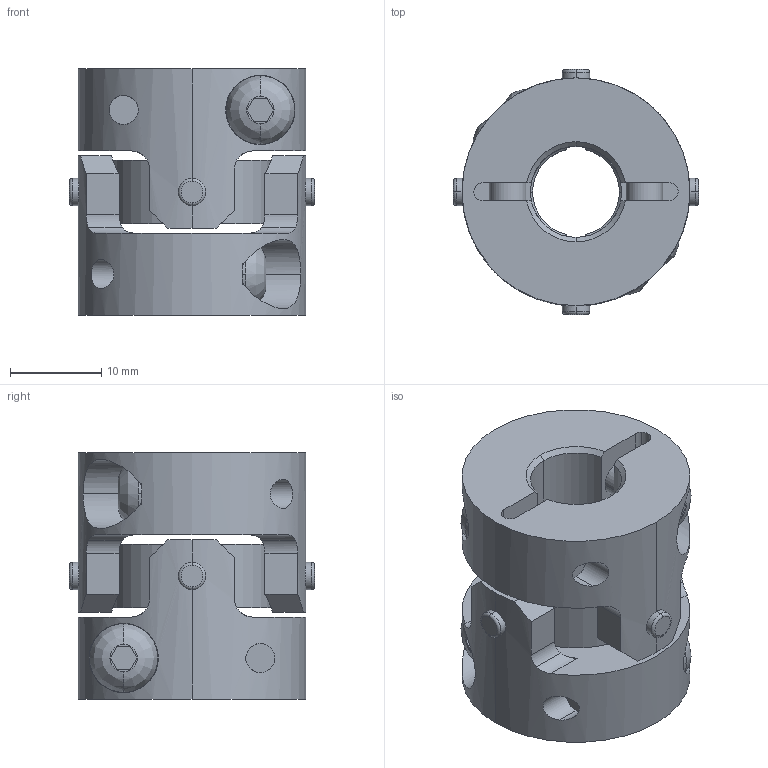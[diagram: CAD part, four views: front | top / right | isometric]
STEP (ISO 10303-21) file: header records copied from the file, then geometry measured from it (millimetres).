
FILE_DESCRIPTION((''),'2;1');
FILE_NAME('UA-25C-9.525×10.stp','2013-05-16T09:34:06',(''),(''),'AutoCAD STEP 2000i','AutoCAD 2000i',', , ');
FILE_SCHEMA(('CONFIG_CONTROL_DESIGN'));
Length unit declared in the file: millimetre
Products named in the file (8): UA-25C-9×9; 忣兜1; UA-2502-D09-1; BTN-M4; UA-2502-D09; UA-2502-D05-1; UA-2502-D05; UA25-SEN
Assembly tree (10 placements, depth 3):
  UA-25C-9×9
    忣兜1
    UA-2502-D09-1
      BTN-M4
    UA-2502-D09
      BTN-M4
    UA-2502-D05-1
      BTN-M4
    UA-2502-D05
      BTN-M4
    UA25-SEN
Bounding box: 26.89 x 26.89 x 27 mm (x, y, z)
Volume: 8817.1 mm3; surface area: 6272.2 mm2
Topology: 1 solids, 1 shells, 210 faces, 570 edges, 372 vertices
Faces by surface type: cylinder 96, plane 82, cone 16, bspline 8, torus 8
Entity records: 8479 total; most frequent: CARTESIAN_POINT 2991, ORIENTED_EDGE 1140, DIRECTION 1104, EDGE_CURVE 570, AXIS2_PLACEMENT_3D 425, VERTEX_POINT 372, VECTOR 254, LINE 254
